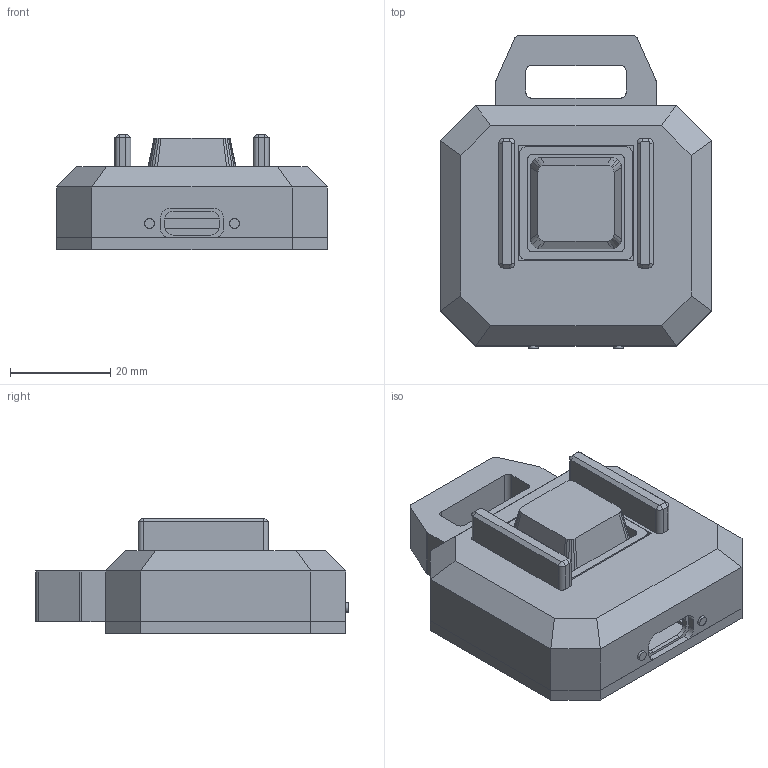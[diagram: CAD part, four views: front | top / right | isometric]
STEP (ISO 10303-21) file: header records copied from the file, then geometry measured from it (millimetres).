
FILE_DESCRIPTION(('Open CASCADE Model'),'2;1');
FILE_NAME('Open CASCADE Shape Model','2026-09-28T16:03:24',('Author'),( 'Open CASCADE'),'Open CASCADE STEP processor 7.9','Open CASCADE 7.9' ,'Unknown');
FILE_SCHEMA(('AUTOMOTIVE_DESIGN { 1 0 10303 214 1 1 1 1 }'));
Length unit declared in the file: millimetre
Products named in the file (6): 5eda1bee-bb45-11f1-9d48-e182bab60da6; upper_shell; bottom_chassis; keycap_oem; accent_halo; lightguides
Assembly tree (5 placements, depth 2):
  5eda1bee-bb45-11f1-9d48-e182bab60da6
    upper_shell
    bottom_chassis
    keycap_oem
    accent_halo
    lightguides
Bounding box: 54 x 62.5 x 23 mm (x, y, z)
Volume: 20788.8 mm3; surface area: 20330.6 mm2
Topology: 5 solids, 5 shells, 362 faces, 932 edges, 608 vertices
Faces by surface type: plane 239, bspline 64, cylinder 49, cone 10
Full cylindrical faces by diameter (mm): 1.9 x2, 2 x2, 3.4 x6, 5.8 x1, 7.2 x2
Entity records: 22873 total; most frequent: CARTESIAN_POINT 4861, DIRECTION 2971, LINE 2065, VECTOR 2065, ORIENTED_EDGE 1864, PCURVE 1864, DEFINITIONAL_REPRESENTATION 1864, EDGE_CURVE 932
